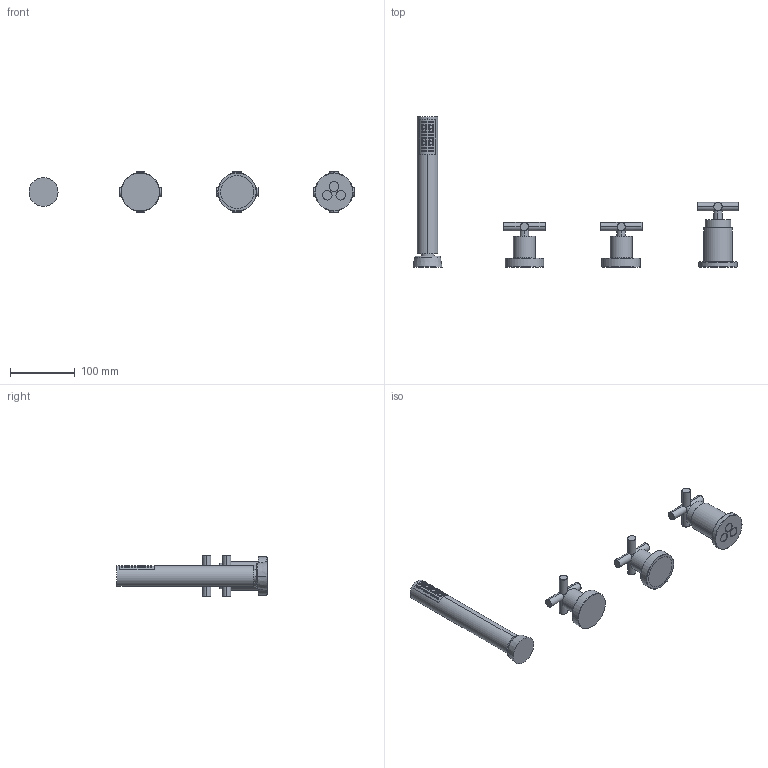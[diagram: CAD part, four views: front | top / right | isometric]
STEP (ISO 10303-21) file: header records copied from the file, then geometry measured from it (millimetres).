
FILE_DESCRIPTION((''),'2;1');
FILE_NAME('3D_SW0002_1_ASM','2013-06-03T',('ivanv'),(''),'PRO/ENGINEER BY PARAMETRIC TECHNOLOGY CORPORATION, 2012130','PRO/ENGINEER BY PARAMETRIC TECHNOLOGY CORPORATION, 2012130','');
FILE_SCHEMA(('CONFIG_CONTROL_DESIGN'));
Length unit declared in the file: millimetre
Products named in the file (6): BREP_WITH_VOIDS_8796; MANIFOLD_SOLID_BREP_10718; MANIFOLD_SOLID_BREP_14506; MANIFOLD_SOLID_BREP_18041; MANIFOLD_SOLID_BREP_30656; 3D_SW0002_1_ASM
Assembly tree (5 placements, depth 2):
  3D_SW0002_1_ASM
    BREP_WITH_VOIDS_8796
    MANIFOLD_SOLID_BREP_10718
    MANIFOLD_SOLID_BREP_14506
    MANIFOLD_SOLID_BREP_18041
    MANIFOLD_SOLID_BREP_30656
Bounding box: 505 x 232.5 x 65 mm (x, y, z)
Volume: 412529.6 mm3; surface area: 104489.4 mm2
Topology: 5 solids, 8 shells, 779 faces, 1999 edges, 1332 vertices
Faces by surface type: cylinder 329, plane 321, cone 79, torus 50
Entity records: 26188 total; most frequent: CARTESIAN_POINT 6933, DIRECTION 4041, ORIENTED_EDGE 3990, EDGE_CURVE 1995, AXIS2_PLACEMENT_3D 1598, VERTEX_POINT 1332, EDGE_LOOP 883, VECTOR 845
